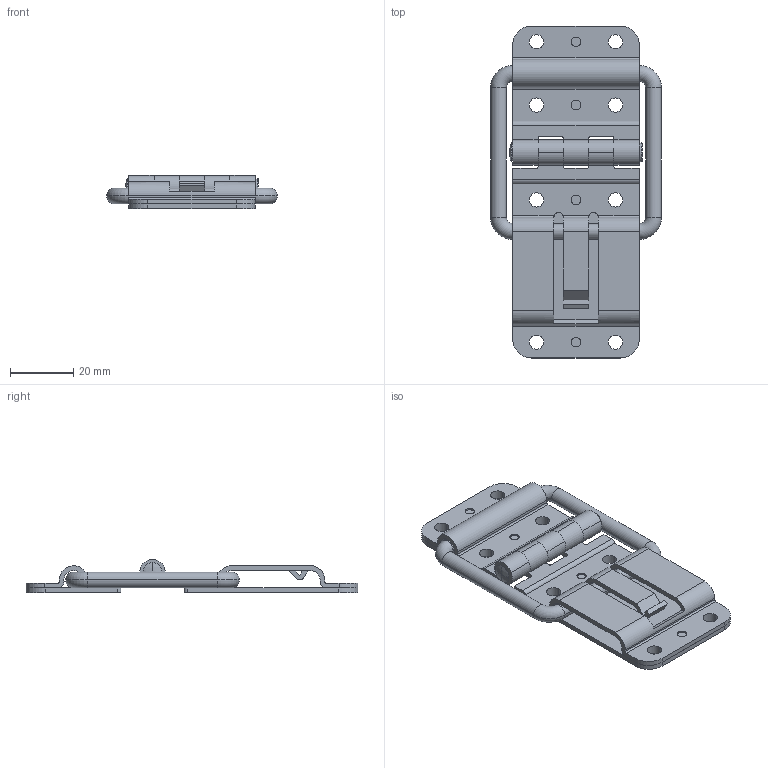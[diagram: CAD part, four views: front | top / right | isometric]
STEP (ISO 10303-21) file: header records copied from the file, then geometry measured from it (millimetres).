
FILE_DESCRIPTION(('STEP AP203'),'1');
FILE_NAME('C:/TPO v2/SharedFS/Outgoing/52-7-3960.stp','2014-02-26T10:51:03',('TraceParts'),('TraceParts S.A.'),'XStep 1.0',' ',' ');
FILE_SCHEMA(('CONFIG_CONTROL_DESIGN'));
Length unit declared in the file: millimetre
Products named in the file (4): 1; 2; 3; 4
Bounding box: 54 x 105 x 10.5 mm (x, y, z)
Volume: 16375.1 mm3; surface area: 18807.6 mm2
Topology: 4 solids, 4 shells, 221 faces, 594 edges, 384 vertices
Faces by surface type: cylinder 117, plane 86, torus 12, sphere 4, cone 2
Entity records: 7243 total; most frequent: DIRECTION 1299, CARTESIAN_POINT 1259, ORIENTED_EDGE 1188, EDGE_CURVE 594, AXIS2_PLACEMENT_3D 488, VERTEX_POINT 384, LINE 323, VECTOR 323
